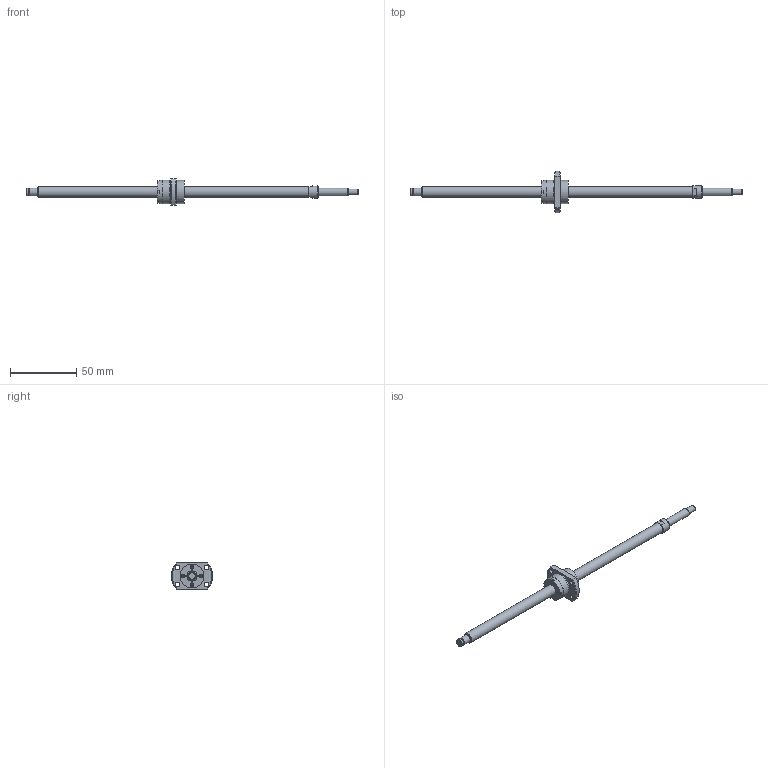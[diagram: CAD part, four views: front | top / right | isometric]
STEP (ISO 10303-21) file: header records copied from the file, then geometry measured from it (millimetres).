
FILE_DESCRIPTION(/* description */ ('STEP AP214'),/* implementation_level */ '2;1');
FILE_NAME(/* name */ 'SG0808-200R250C5B0X(90)',/* time_stamp */ '2026-07-21T16:53:23+02:00',/* author */ ('License CC BY-ND 4.0'),/* organization */ ('CADENAS'),/* preprocessor_version */ 'ST-DEVELOPER v20',/* originating_system */ 'PARTsolutions',/* authorisation */ ' ');
FILE_SCHEMA (('AUTOMOTIVE_DESIGN {1 0 10303 214 3 1 1}'));
Length unit declared in the file: millimetre
Products named in the file (3): SG0808-200R250C5B0X(90); SG0808-200R250C5B_shaft; SG0808 C5_nut
Assembly tree (2 placements, depth 2):
  SG0808-200R250C5B0X(90)
    SG0808-200R250C5B_shaft
    SG0808 C5_nut
Bounding box: 250 x 30.91 x 20 mm (x, y, z)
Volume: 16765 mm3; surface area: 9120.6 mm2
Topology: 2 solids, 2 shells, 107 faces, 242 edges, 157 vertices
Faces by surface type: plane 66, cylinder 27, cone 13, torus 1
Full cylindrical faces by diameter (mm): 2.25 x4, 3.4 x4, 4.5 x1, 5.7 x1, 6 x3, 8 x2, 9.5 x1, 17.45 x3, 18 x2
Entity records: 2921 total; most frequent: DIRECTION 500, CARTESIAN_POINT 498, ORIENTED_EDGE 418, EDGE_CURVE 209, AXIS2_PLACEMENT_3D 189, EDGE_LOOP 166, FACE_BOUND 166, VERTEX_POINT 155
